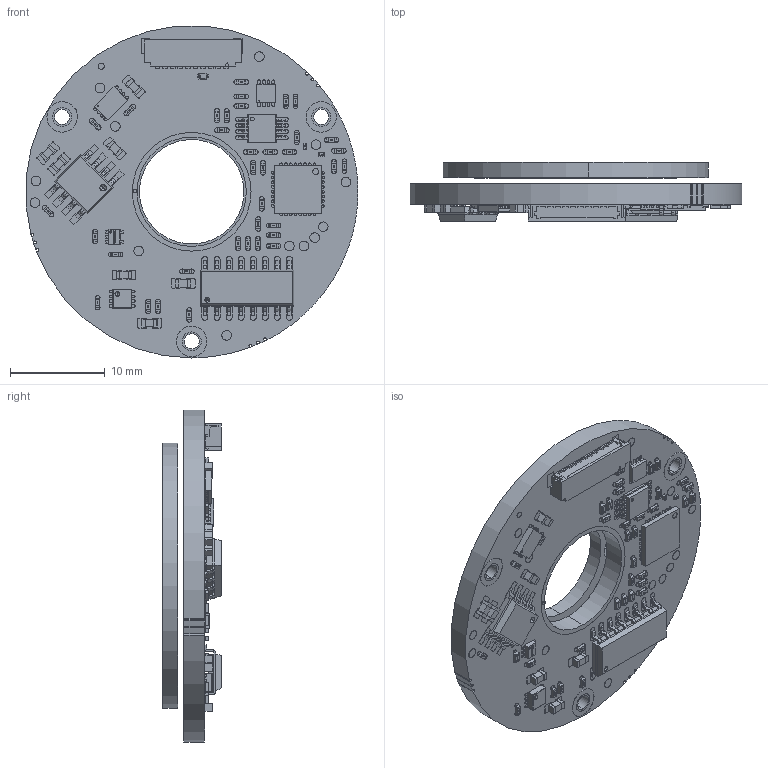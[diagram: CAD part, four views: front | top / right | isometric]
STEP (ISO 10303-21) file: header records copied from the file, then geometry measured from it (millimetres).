
FILE_DESCRIPTION (( 'STEP AP214' ), '1' );
FILE_NAME ('VLH-35 F16 C15 Assy.STEP', '2021-09-30T09:09:03', ( '' ), ( '' ), 'SwSTEP 2.0', 'SolidWorks 2019', '' );
FILE_SCHEMA (( 'AUTOMOTIVE_DESIGN' ));
Length unit declared in the file: millimetre
Products named in the file (85): VLH-35 F16 C15 Assy; 0402.stp; 0603.stp; PB-00551-02-040821; SON8_0P5_2X2MM.stp; SOD923.stp; MSOP-8_0P65_3X3X1P1.stp; User Library-SMD RESISTOR-1-1.stp; User Library-SMD RESISTOR-1.stp; User Library-sot-553.stp; COMPONENTS.stp; DF52-10S-0.8H.stp; Body.stp; 0201_LED_HD.stp; sot-553_body.stp; sot-553_pins.stp; User Library-C0603-2.stp; PinsArrayTB.stp; PB-00551_F 16 C 15; EA-000551; SOT-553.stp; PB-00551_REV02_040821.stp; product-0.stp; User Library-User Library-MSOP-8-1.stp; SON8_2X2X0P6_0P5.stp; 69887B30-599F-4E6D-B2C4-C87CC6AC0F7A.stp; SOIC8.stp; product.stp; TDFN_8_0P5_3X2X0P8_EP.stp; DF52-10S-0P8H.stp; sot-553_index.stp; INTERNAL_RING_PCB.stp; PinsArrayLR.stp; User Library-SOIC-8-1.stp; User Library-SOD-923.stp; ASSEMBLY.stp; TP25MIL.stp; ThermalPin.stp; User Library-SON8-2x2mm-1.stp; sot-553_marking.stp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
Assembly tree (134 placements, depth 8):
  VLH-35 F16 C15 Assy
    EA-000551
      PB-00551_F 16 C 15
      PB-00551-02-040821
        PB-00551_REV02_040821.stp
          COMPONENTS.stp
            UFQFPN32_5X5X0P6_0P5_EP3P5SQ.stp
              ASSEMBLY.stp
                Body.stp
                ThermalPin.stp
                PinsArrayLR.stp
                PinsArrayTB.stp
            0201_LED_HD.stp
              User Library-SMD RESISTOR-1.stp
            0201_LED_HD.stp
              User Library-SMD RESISTOR-1.stp
            SON8_2X2X0P6_0P5.stp
              product.stp
            SOIC-16.stp
              69887B30-599F-4E6D-B2C4-C87CC6AC0F7A.stp
            DF52-10S-0P8H.stp
              DF52-10S-0.8H.stp
            TDFN_8_0P5_3X2X0P8_EP.stp
              product-0.stp
            0603.stp
              User Library-C0603-2.stp
            0603.stp
              User Library-C0603-2.stp
            0603.stp
              User Library-C0603-2.stp
            0603.stp
              User Library-C0603-2.stp
            0603.stp
              User Library-C0603-2.stp
            0603.stp
              User Library-C0603-2.stp
            0603.stp
              User Library-C0603-2.stp
            SOD923.stp
              User Library-SOD-923.stp
            0402.stp
              User Library-SMD RESISTOR-1-1.stp
            0402.stp
              User Library-SMD RESISTOR-1-1.stp
            0402.stp
              User Library-SMD RESISTOR-1-1.stp
            0402.stp
              User Library-SMD RESISTOR-1-1.stp
            0402.stp
              User Library-SMD RESISTOR-1-1.stp
            0402.stp
              User Library-SMD RESISTOR-1-1.stp
            0402.stp
              User Library-SMD RESISTOR-1-1.stp
            0402.stp
              User Library-SMD RESISTOR-1-1.stp
            0402.stp
              User Library-SMD RESISTOR-1-1.stp
            0402.stp
              User Library-SMD RESISTOR-1-1.stp
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Bounding box: 34.94 x 6.18 x 34.95 mm (x, y, z)
Volume: 2851.3 mm3; surface area: 4124.8 mm2
Topology: 237 solids, 258 shells, 7197 faces, 17776 edges, 11584 vertices
Faces by surface type: plane 4635, cylinder 1216, bspline 1212, sphere 124, cone 6, torus 4
Entity records: 130873 total; most frequent: CARTESIAN_POINT 25411, DIRECTION 17027, ORIENTED_EDGE 16846, EDGE_CURVE 8441, LINE 5755, VECTOR 5755, AXIS2_PLACEMENT_3D 5636, VERTEX_POINT 5542
